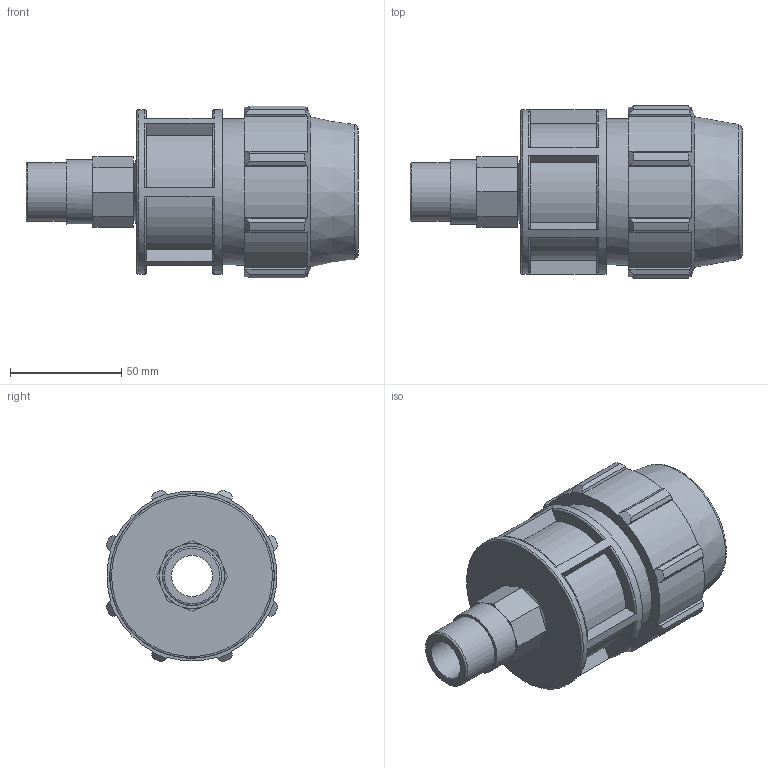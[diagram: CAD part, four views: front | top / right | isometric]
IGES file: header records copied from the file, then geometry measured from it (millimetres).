
Global section: file name: 077200040007_187200040007_0772060400070A.ipt; native system: Autodesk Inventor 2015; preprocessor: unknown; author: KIM; date: 20170606.174240; units: millimetre
Bounding box: 149 x 77.16 x 77.16 mm (x, y, z)
Volume: 265850.9 mm3; surface area: 56236.1 mm2
Topology: 1 solids, 1 shells, 137 faces, 367 edges, 244 vertices
Faces by surface type: plane 81, cylinder 26, revolution 19, cone 11
Full cylindrical faces by diameter (mm): 26.441 x1, 29.085 x1, 65.6 x1, 73.8 x1
